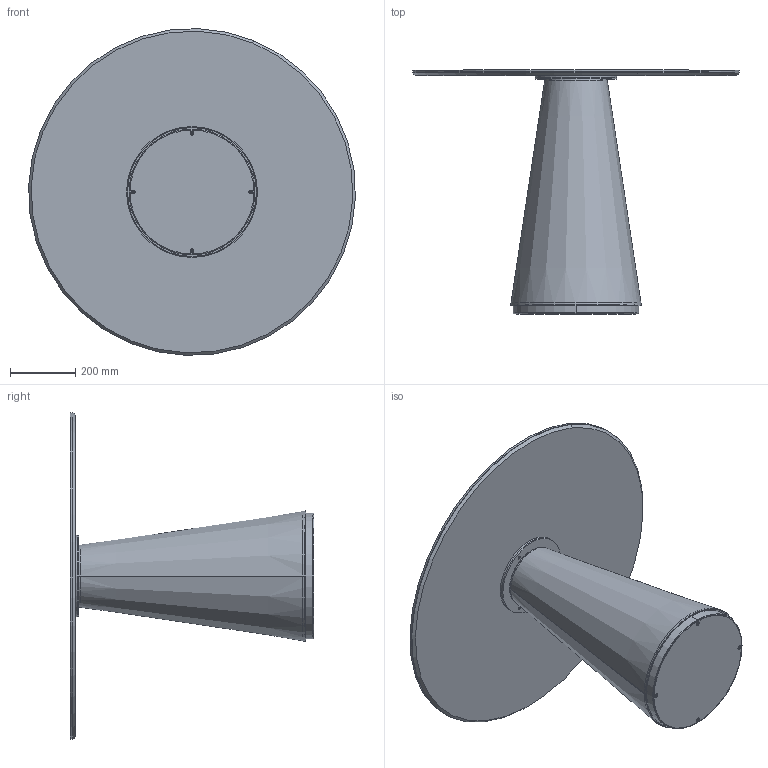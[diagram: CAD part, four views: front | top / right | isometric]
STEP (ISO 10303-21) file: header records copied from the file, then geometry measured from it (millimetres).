
FILE_DESCRIPTION (( 'STEP AP203' ), '1' );
FILE_NAME ('TE30C.STEP', '2024-08-08T07:52:01', ( '' ), ( '' ), 'SwSTEP 2.0', 'SolidWorks 2022', '' );
FILE_SCHEMA (( 'CONFIG_CONTROL_DESIGN' ));
Length unit declared in the file: millimetre
Products named in the file (12): TE30C; KXXCXX-00-Piani Rotondi in ceramica CON PIASTRA_K03P PIANO CERAMICA D.100cm; M6xXXmm_HEX_M6x20mm HEX; TED000000TCONO-00-TED CONO; TED000000PIA-00-TED PIASTRA SOPRA; Assieme BASE TED; P0000003-00-STAFFA DI FISSAGGIO DIAMETRO 250_P0000003-250mm normale; TED000000BAS_01-00-TED PIASTRA; M6xXXmm_HEX_M6x40mm HEX; K1XCMXX-00-Piani Rotondi in ceramica_D.1000; M8xXXmm_M8X35mm; P0000005-00-FILETTO M24 CON FORO H.20mm
Assembly tree (17 placements, depth 3):
  TE30C
    KXXCXX-00-Piani Rotondi in ceramica CON PIASTRA_K03P PIANO CERAMICA D.100cm
      K1XCMXX-00-Piani Rotondi in ceramica_D.1000
      P0000003-00-STAFFA DI FISSAGGIO DIAMETRO 250_P0000003-250mm normale
      M8xXXmm_M8X35mm
      P0000005-00-FILETTO M24 CON FORO H.20mm
    Assieme BASE TED
      TED000000BAS_01-00-TED PIASTRA
      TED000000PIA-00-TED PIASTRA SOPRA
      TED000000TCONO-00-TED CONO
      M6xXXmm_HEX_M6x20mm HEX  x4
      M6xXXmm_HEX_M6x40mm HEX  x4
Bounding box: 999.3 x 745.5 x 999.3 mm (x, y, z)
Volume: 14154281 mm3; surface area: 5089996.7 mm2
Topology: 18 solids, 18 shells, 437 faces, 941 edges, 532 vertices
Faces by surface type: plane 195, cylinder 140, cone 75, torus 24, bspline 3
Entity records: 10337 total; most frequent: CARTESIAN_POINT 3524, DIRECTION 1222, ORIENTED_EDGE 1054, EDGE_CURVE 527, AXIS2_PLACEMENT_3D 510, VERTEX_POINT 322, EDGE_LOOP 291, CIRCLE 258
